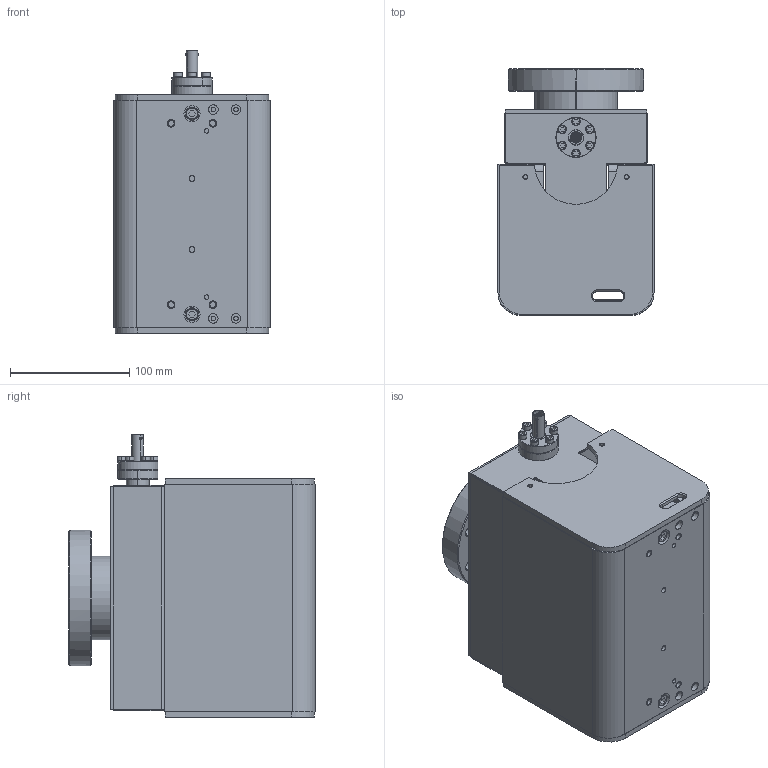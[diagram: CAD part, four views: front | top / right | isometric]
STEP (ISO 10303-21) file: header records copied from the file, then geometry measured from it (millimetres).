
FILE_DESCRIPTION((''),'2;1');
FILE_NAME('45S-XX-4V-XX','2020-12-02T11:42:16',('langebj'),('Gamma Vacuum, LLC'),'CREO PARAMETRIC BY PTC INC, 2020044','CREO PARAMETRIC BY PTC INC, 2020044','');
FILE_SCHEMA(('AUTOMOTIVE_DESIGN { 1 0 10303 214 1 1 1 1 }'));
Products named in the file (1): 45S-XX-4V-XX
Bounding box: 131.2 x 207.16 x 237.37 mm (x, y, z)
Surface area: 502291.2 mm2 (no closed solid volume)
Topology: 0 solids, 0 shells, 958 faces, 4806 edges, 4772 vertices
Faces by surface type: cylinder 388, plane 356, cone 168, torus 44, sphere 2
Entity records: 70415 total; most frequent: CARTESIAN_POINT 17063, DIRECTION 9215, TRIMMED_CURVE 6216, VECTOR 5150, LINE 5150, DEFINITIONAL_REPRESENTATION 4740, PCURVE 4740, COMPOSITE_CURVE_SEGMENT 4740
